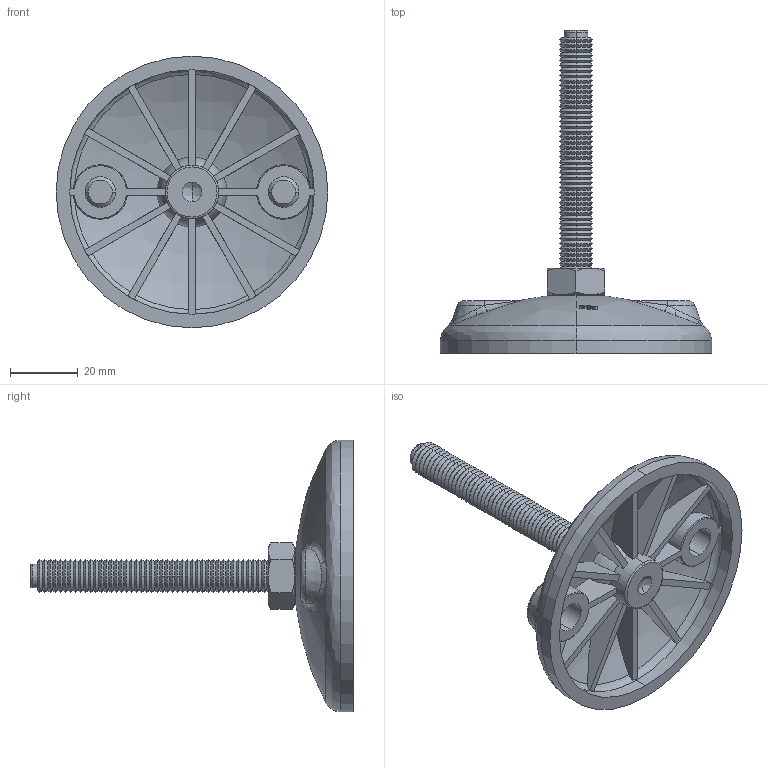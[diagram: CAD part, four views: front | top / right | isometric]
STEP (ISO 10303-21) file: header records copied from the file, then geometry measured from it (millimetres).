
FILE_DESCRIPTION (( 'STEP AP214' ), '1' );
FILE_NAME ('FABER - 331 80 M10.STEP', '2017-04-05T12:16:28', ( '' ), ( '' ), 'SwSTEP 2.0', 'SolidWorks 2016', '' );
FILE_SCHEMA (( 'AUTOMOTIVE_DESIGN' ));
Length unit declared in the file: millimetre
Products named in the file (1): FABER - 331 80 M10
Bounding box: 80 x 95.08 x 80 mm (x, y, z)
Volume: 35683.8 mm3; surface area: 22965.4 mm2
Topology: 3 solids, 3 shells, 556 faces, 1396 edges, 861 vertices
Faces by surface type: cone 228, plane 172, bspline 130, cylinder 26
Entity records: 26682 total; most frequent: CARTESIAN_POINT 8390, ORIENTED_EDGE 2776, DIRECTION 2188, EDGE_CURVE 1388, AXIS2_PLACEMENT_3D 863, VERTEX_POINT 861, EDGE_LOOP 581, UNCERTAINTY_MEASURE_WITH_UNIT 561
